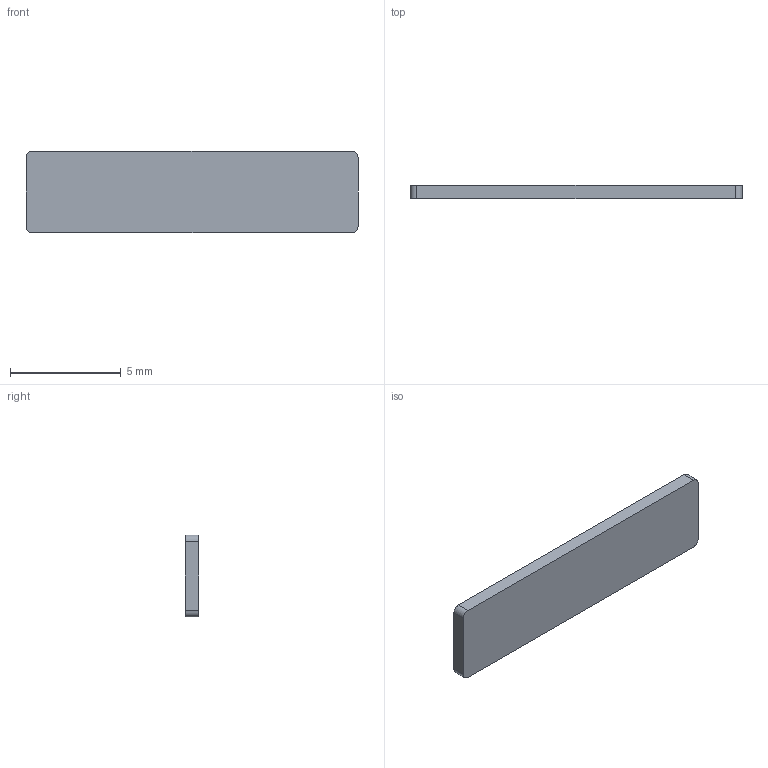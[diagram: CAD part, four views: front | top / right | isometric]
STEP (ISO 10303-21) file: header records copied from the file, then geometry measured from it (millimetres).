
FILE_DESCRIPTION (( 'STEP AP203' ), '1' );
FILE_NAME ('908083 REV_01, S Pole Magnet Grade N40 L15xW3.7xH0.6.STEP', '2024-08-23T08:57:52', ( '' ), ( '' ), 'SwSTEP 2.0', 'SolidWorks 2020', '' );
FILE_SCHEMA (( 'CONFIG_CONTROL_DESIGN' ));
Length unit declared in the file: millimetre
Products named in the file (1): 908083 REV_01, S Pole Magnet Grade N40 L15xW3.7xH0.6
Bounding box: 15 x 0.6 x 3.7 mm (x, y, z)
Volume: 33.3 mm3; surface area: 133 mm2
Topology: 1 solids, 1 shells, 10 faces, 24 edges, 16 vertices
Faces by surface type: plane 6, cylinder 4
Entity records: 373 total; most frequent: DIRECTION 54, CARTESIAN_POINT 51, ORIENTED_EDGE 48, EDGE_CURVE 24, AXIS2_PLACEMENT_3D 19, LINE 16, VERTEX_POINT 16, VECTOR 16
